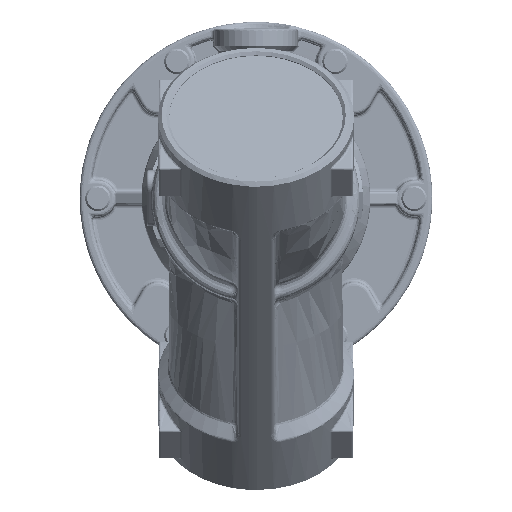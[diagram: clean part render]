
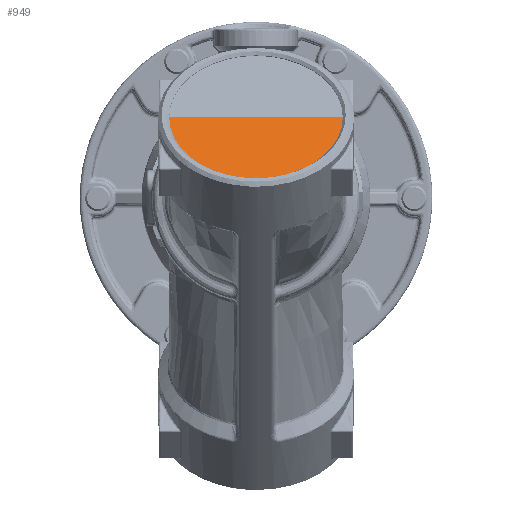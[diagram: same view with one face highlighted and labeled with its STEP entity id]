
A CAD part, front view. The second image highlights one B-rep face of the part: STEP entity #949.
In plain terms, the highlighted free-form (B-spline) face has degree [2, 1] with [5, 2] control points.
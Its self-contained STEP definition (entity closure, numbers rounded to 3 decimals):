
#949=ADVANCED_FACE('',(#8191),#8190,.T.);
#8190=( BOUNDED_SURFACE() B_SPLINE_SURFACE( 2,1,((#30753,#30754),(#30755,#30756),(#30757,#30758),(#30759,#30760),(#30761,#30762)), .UNSPECIFIED.,.F.,.F.,.F.) B_SPLINE_SURFACE_WITH_KNOTS((3,2,3),(2,2),(0.,0.5,1.),(0.,1.), .UNSPECIFIED. ) GEOMETRIC_REPRESENTATION_ITEM() RATIONAL_B_SPLINE_SURFACE(((1.,1.),(0.707,0.707),(1.,1.),(0.707,0.707),(1.,1.))) REPRESENTATION_ITEM('') SURFACE() );
#8191=FACE_OUTER_BOUND('',#30763,.T.);
#30753=CARTESIAN_POINT('',(31.589,0.,0.));
#30754=CARTESIAN_POINT('',(31.467,0.,-33.791));
#30755=CARTESIAN_POINT('',(31.589,0.,0.));
#30756=CARTESIAN_POINT('',(31.467,-33.791,-33.791));
#30757=CARTESIAN_POINT('',(31.589,0.,0.));
#30758=CARTESIAN_POINT('',(31.467,-33.791,0.));
#30759=CARTESIAN_POINT('',(31.589,0.,0.));
#30760=CARTESIAN_POINT('',(31.467,-33.791,33.791));
#30761=CARTESIAN_POINT('',(31.589,0.,0.));
#30762=CARTESIAN_POINT('',(31.467,0.,33.791));
#30763=EDGE_LOOP('',(#54186,#54187,#54188,#54189));
#54186=ORIENTED_EDGE('',*,*,#59286,.F.);
#54187=ORIENTED_EDGE('',*,*,#59293,.F.);
#54188=ORIENTED_EDGE('',*,*,#59300,.F.);
#54189=ORIENTED_EDGE('',*,*,#59301,.T.);
#59286=EDGE_CURVE('',#71186,#71187,#71188,.T.);
#59293=EDGE_CURVE('',#71227,#71186,#71234,.T.);
#59300=EDGE_CURVE('',#71277,#71227,#71278,.T.);
#59301=EDGE_CURVE('',#71277,#71187,#71284,.T.);
#71186=VERTEX_POINT('',#93405);
#71187=VERTEX_POINT('',#93406);
#71188=CIRCLE('',#93410,23.894);
#71227=VERTEX_POINT('',#93430);
#71234=CIRCLE('',#93438,23.894);
#71277=VERTEX_POINT('',#93452);
#71278=(BOUNDED_CURVE() B_SPLINE_CURVE(1,(#93453,#93454),.UNSPECIFIED.,.F.,.F.) B_SPLINE_CURVE_WITH_KNOTS((2,2),(0.,0.707),.UNSPECIFIED.) CURVE() GEOMETRIC_REPRESENTATION_ITEM() RATIONAL_B_SPLINE_CURVE((1.,1.)) REPRESENTATION_ITEM('') );
#71284=(BOUNDED_CURVE() B_SPLINE_CURVE(1,(#93455,#93456),.UNSPECIFIED.,.F.,.F.) B_SPLINE_CURVE_WITH_KNOTS((2,2),(0.,0.707),.UNSPECIFIED.) CURVE() GEOMETRIC_REPRESENTATION_ITEM() RATIONAL_B_SPLINE_CURVE((0.75,0.75)) REPRESENTATION_ITEM('') );
#93405=CARTESIAN_POINT('',(31.502,-23.894,0.));
#93406=CARTESIAN_POINT('',(31.502,0.,23.894));
#93407=CARTESIAN_POINT('',(31.502,0.,0.));
#93408=DIRECTION('',(-1.,0.,0.));
#93409=DIRECTION('',(0.,0.,1.));
#93410=AXIS2_PLACEMENT_3D('',#93407,#93408,#93409);
#93430=CARTESIAN_POINT('',(31.502,0.,-23.894));
#93435=CARTESIAN_POINT('',(31.502,0.,0.));
#93436=DIRECTION('',(-1.,0.,0.));
#93437=DIRECTION('',(0.,0.,1.));
#93438=AXIS2_PLACEMENT_3D('',#93435,#93436,#93437);
#93452=CARTESIAN_POINT('',(31.589,0.,0.));
#93453=CARTESIAN_POINT('',(31.589,0.,0.));
#93454=CARTESIAN_POINT('',(31.502,0.,-23.894));
#93455=CARTESIAN_POINT('',(31.589,0.,0.));
#93456=CARTESIAN_POINT('',(31.502,0.,23.894));
